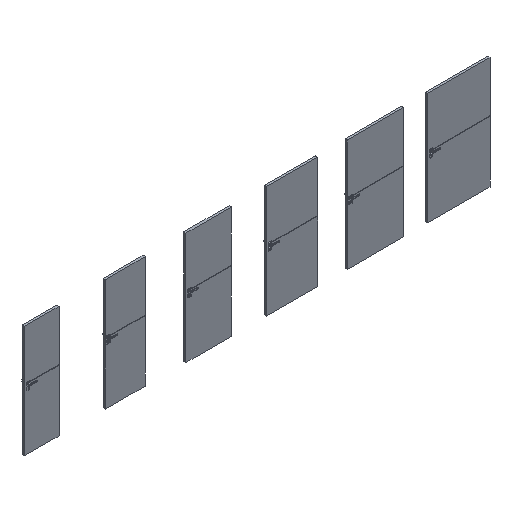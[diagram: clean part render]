
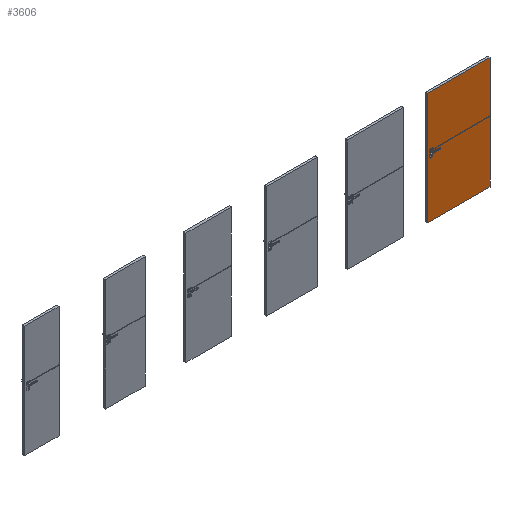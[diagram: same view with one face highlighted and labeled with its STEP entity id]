
A CAD part, isometric view. The second image highlights one B-rep face of the part: STEP entity #3606.
In plain terms, the highlighted planar face has unit normal (0, -1, 0).
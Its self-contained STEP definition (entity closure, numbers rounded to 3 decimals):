
#2442=FACE_OUTER_BOUND('',#6306,.T.);
#3606=ADVANCED_FACE('',(#2442),#4076,.F.);
#4076=PLANE('',#20023);
#4935=CIRCLE('',#20022,4.15);
#6306=EDGE_LOOP('',(#11366,#11367,#11368,#11369,#11370,#11371,#11372,#11373));
#11366=ORIENTED_EDGE('',*,*,#15508,.F.);
#11367=ORIENTED_EDGE('',*,*,#15496,.F.);
#11368=ORIENTED_EDGE('',*,*,#15509,.F.);
#11369=ORIENTED_EDGE('',*,*,#15510,.T.);
#11370=ORIENTED_EDGE('',*,*,#15511,.T.);
#11371=ORIENTED_EDGE('',*,*,#15484,.F.);
#11372=ORIENTED_EDGE('',*,*,#15512,.T.);
#11373=ORIENTED_EDGE('',*,*,#15513,.F.);
#12940=VERTEX_POINT('',#38746);
#12941=VERTEX_POINT('',#38748);
#12952=VERTEX_POINT('',#38770);
#12953=VERTEX_POINT('',#38772);
#12962=VERTEX_POINT('',#38795);
#12963=VERTEX_POINT('',#38797);
#12964=VERTEX_POINT('',#38799);
#12965=VERTEX_POINT('',#38802);
#15484=EDGE_CURVE('',#12940,#12941,#16851,.T.);
#15496=EDGE_CURVE('',#12952,#12953,#16859,.T.);
#15508=EDGE_CURVE('',#12953,#12962,#16867,.T.);
#15509=EDGE_CURVE('',#12963,#12952,#16868,.T.);
#15510=EDGE_CURVE('',#12963,#12964,#16869,.T.);
#15511=EDGE_CURVE('',#12964,#12941,#16870,.T.);
#15512=EDGE_CURVE('',#12940,#12965,#16871,.T.);
#15513=EDGE_CURVE('',#12962,#12965,#4935,.T.);
#16851=LINE('',#38747,#18195);
#16859=LINE('',#38771,#18203);
#16867=LINE('',#38794,#18211);
#16868=LINE('',#38796,#18212);
#16869=LINE('',#38798,#18213);
#16870=LINE('',#38800,#18214);
#16871=LINE('',#38801,#18215);
#18195=VECTOR('',#24920,1.);
#18203=VECTOR('',#24936,1.);
#18211=VECTOR('',#24956,1.);
#18212=VECTOR('',#24957,1.);
#18213=VECTOR('',#24958,1.);
#18214=VECTOR('',#24959,1.);
#18215=VECTOR('',#24960,1.);
#20022=AXIS2_PLACEMENT_3D('',#38803,#24961,#24962);
#20023=AXIS2_PLACEMENT_3D('',#38804,#24963,#24964);
#24920=DIRECTION('',(0.,0.,-1.));
#24936=DIRECTION('',(0.,0.,-1.));
#24956=DIRECTION('',(-1.,0.,0.));
#24957=DIRECTION('',(1.,0.,0.));
#24958=DIRECTION('',(0.,0.,-1.));
#24959=DIRECTION('',(1.,0.,0.));
#24960=DIRECTION('',(-1.,0.,0.));
#24961=DIRECTION('',(0.,-1.,0.));
#24962=DIRECTION('',(0.,0.,-1.));
#24963=DIRECTION('',(0.,1.,0.));
#24964=DIRECTION('',(-1.,0.,0.));
#38746=CARTESIAN_POINT('',(8059.,-39.3,1099.85));
#38747=CARTESIAN_POINT('',(8059.,-39.3,2017.));
#38748=CARTESIAN_POINT('',(8059.,-39.3,0.));
#38770=CARTESIAN_POINT('',(8059.,-39.3,2017.));
#38771=CARTESIAN_POINT('',(8059.,-39.3,2017.));
#38772=CARTESIAN_POINT('',(8059.,-39.3,1108.15));
#38794=CARTESIAN_POINT('',(8059.,-39.3,1108.15));
#38795=CARTESIAN_POINT('',(7035.15,-39.3,1108.15));
#38796=CARTESIAN_POINT('',(7191.,-39.3,2017.));
#38797=CARTESIAN_POINT('',(6941.,-39.3,2017.));
#38798=CARTESIAN_POINT('',(6941.,-39.3,2017.));
#38799=CARTESIAN_POINT('',(6941.,-39.3,0.));
#38800=CARTESIAN_POINT('',(7191.,-39.3,0.));
#38801=CARTESIAN_POINT('',(8059.,-39.3,1099.85));
#38802=CARTESIAN_POINT('',(7035.15,-39.3,1099.85));
#38803=CARTESIAN_POINT('',(7035.15,-39.3,1104.));
#38804=CARTESIAN_POINT('',(7191.,-39.3,2017.));
